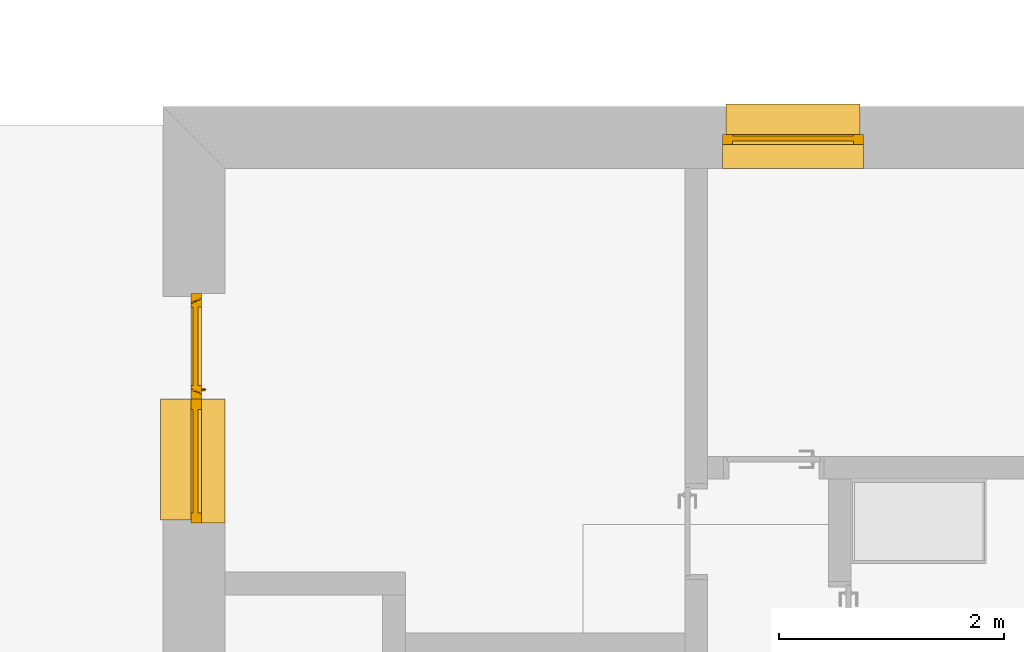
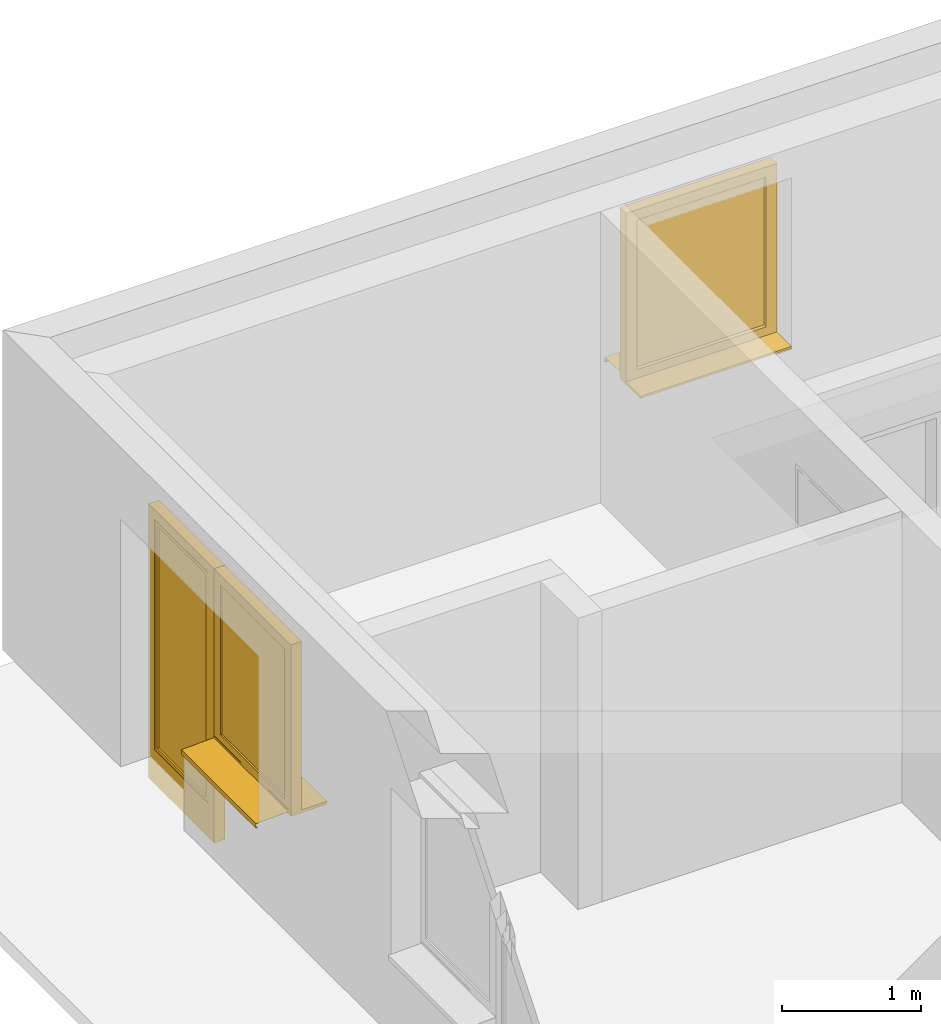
# One storey, part 15 of 18: 3 windows.
"""IFC2X3 building model written with IfcOpenShell, lengths in metres."""

from ifc_helpers import new_model, entity, si_unit, converted_unit, derived_unit, direction, frame, origin, origin_2d_with_axis, place, context, subcontext, project, spatial, polyline, rectangle, outline, extrude, faceted_brep, source, transform, mapped, material, material_list, type_object, type_shapes, element, save


model = new_model("IFC2X3")

# Units and contexts
model_context = context("Model", 3, precision=1e-05, world=origin(), true_north=direction((6.123233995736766e-17, 1.0)))
body_context = subcontext(model_context, "Body", "Model", "MODEL_VIEW")
ifc_project = project(units=[si_unit("LENGTHUNIT", "METRE"), si_unit("AREAUNIT", "SQUARE_METRE"), si_unit("VOLUMEUNIT", "CUBIC_METRE"), si_unit("POWERUNIT", "WATT"), derived_unit("USERDEFINED", [(si_unit("MASSUNIT", "GRAM", prefix="KILO"), 1), (si_unit("TIMEUNIT", "SECOND"), -3)]), derived_unit("THERMALRESISTANCEUNIT", [(si_unit("MASSUNIT", "GRAM", prefix="KILO"), -1), (si_unit("TIMEUNIT", "SECOND"), 3), (si_unit("THERMODYNAMICTEMPERATUREUNIT", "KELVIN"), 1)]), derived_unit("USERDEFINED", [(si_unit("MASSUNIT", "GRAM", prefix="KILO"), 1), (si_unit("TIMEUNIT", "SECOND"), -2), (si_unit("THERMODYNAMICTEMPERATUREUNIT", "KELVIN"), -1)]), derived_unit("THERMALTRANSMITTANCEUNIT", [(si_unit("MASSUNIT", "GRAM", prefix="KILO"), 1), (si_unit("TIMEUNIT", "SECOND"), -3), (si_unit("THERMODYNAMICTEMPERATUREUNIT", "KELVIN"), -1)]), converted_unit("PLANEANGLEUNIT", "DEGREE", entity("IfcPlaneAngleMeasure", 0.017453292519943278), si_unit("PLANEANGLEUNIT", "RADIAN"), dimensions=[0, 0, 0, 0, 0, 0, 0]), derived_unit("MOMENTOFINERTIAUNIT", [(si_unit("LENGTHUNIT", "METRE"), 4)])], contexts=[model_context])

# Site, building, storey
site_placement = place(None, origin())
site = spatial("IfcSite", under=ifc_project, at=site_placement, Name="Default", CompositionType="ELEMENT")
building_placement = place(site_placement, origin())
building = spatial("IfcBuilding", under=site, at=building_placement, CompositionType="ELEMENT")
storey_placement = place(building_placement, frame((0.0, 0.0, 2.6)))
storey = spatial("IfcBuildingStorey", under=building, at=storey_placement, Name="Erdgeschoss", CompositionType="ELEMENT", Elevation=2.6)

# Windows
ifc_material_1 = material(Name="Glas - Isolierverglasung klar")
ifc_material_2 = material(Name="Kunststoff - grau 70-70-70")
ifc_material_3 = material(Name="Holz - generisch 140-100-70")
ifc_material_list_1 = material_list([ifc_material_1, ifc_material_2, ifc_material_3])
window_style_1 = type_object("IfcWindowStyle", Name="FE 1 tlg - Fix:1100 x 1500", ConstructionType="NOTDEFINED", OperationType="NOTDEFINED", ParameterTakesPrecedence=False, Sizeable=False, material=ifc_material_list_1)
shared_shape_1 = source(origin(), body_context, "Body", "SolidModel", [
    extrude(rectangle(XDim=0.9199999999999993, YDim=0.04399999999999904, at=origin_2d_with_axis()), frame((0.5499999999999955, 0.2630000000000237, 0.10000000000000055), z_axis=(0.0, 0.0, 1.0), x_axis=(-1.0, 0.0, 0.0)), (0.0, 0.0, 1.0), 1.3099999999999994),
    extrude(outline(polyline([(-0.7499999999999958, -0.5499999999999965), (0.7499999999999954, -0.5499999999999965), (0.7499999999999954, 0.5499999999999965), (-0.7499999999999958, 0.5499999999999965), (-0.7499999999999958, -0.5499999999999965)]), holes=[polyline([(-0.660000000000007, 0.4599999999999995), (0.6499999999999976, 0.4599999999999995), (0.6499999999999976, -0.4599999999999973), (-0.660000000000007, -0.4599999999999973), (-0.660000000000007, 0.4599999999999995)])]), frame((0.5499999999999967, 0.2100000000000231, 0.7499999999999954), z_axis=(0.0, 1.0, 0.0), x_axis=(0.0, 0.0, -1.0)), (0.0, 0.0, 1.0), 0.08999999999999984),
    extrude(outline(polyline([(-0.014333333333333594, -0.07333333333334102), (0.0036666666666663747, -0.07333333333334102), (0.0036666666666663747, -0.06333333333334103), (0.010666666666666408, -0.06333333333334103), (0.010666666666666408, 0.1366666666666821), (-0.014333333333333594, 0.1366666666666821), (-0.014333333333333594, -0.07333333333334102)])), frame((0.0, 0.07333333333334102, 0.010666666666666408), z_axis=(1.0, 0.0, 0.0), x_axis=(0.0, 0.0, -1.0)), (0.0, 0.0, 1.0), 1.0999999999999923),
    faceted_brep([(0.02999999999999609, 0.5720000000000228, 0.011120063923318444), (0.02999999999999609, 0.550000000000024, 0.012000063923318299), (0.029999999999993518, 0.30200000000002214, 0.021920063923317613), (1.0999999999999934, 0.30200000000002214, 0.021920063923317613), (1.0999999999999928, 0.550000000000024, 0.012000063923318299), (1.0999999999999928, 0.5720000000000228, 0.011120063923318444), (0.02999999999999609, 0.5720000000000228, -0.0288799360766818), (1.0999999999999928, 0.5720000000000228, -0.0288799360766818), (0.02999999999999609, 0.5600000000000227, -0.0288799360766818), (1.0999999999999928, 0.5600000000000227, -0.0288799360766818), (0.02999999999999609, 0.5600000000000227, -0.026879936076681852), (1.0999999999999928, 0.5600000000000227, -0.026879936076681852), (0.02999999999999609, 0.5700000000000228, -0.026879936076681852), (1.0999999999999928, 0.5700000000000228, -0.026879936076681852), (0.02999999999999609, 0.5700000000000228, 0.009200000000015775), (1.0999999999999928, 0.5700000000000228, 0.009200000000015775), (0.02999999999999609, 0.550000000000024, 0.010000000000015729), (1.0999999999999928, 0.550000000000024, 0.010000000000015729), (1.099999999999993, 0.3000000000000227, 0.02000000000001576), (0.029999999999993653, 0.30000000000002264, 0.02000000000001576), (0.029999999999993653, 0.3000000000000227, 0.040000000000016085), (1.099999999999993, 0.3000000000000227, 0.040000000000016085), (0.029999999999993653, 0.30200000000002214, 0.040000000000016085), (1.099999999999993, 0.30200000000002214, 0.040000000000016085)], [[[0, 1, 2, 3, 4, 5]], [[6, 0, 5, 7]], [[8, 6, 7, 9]], [[10, 8, 9, 11]], [[12, 10, 11, 13]], [[14, 12, 13, 15]], [[16, 14, 15, 17, 18, 19]], [[20, 19, 18, 21]], [[22, 20, 21, 23]], [[2, 22, 23, 3]], [[16, 1, 0, 6, 8, 10, 12, 14]], [[17, 4, 3, 23, 21, 18]], [[1, 16, 19, 20, 22, 2]], [[4, 17, 15, 13, 11, 9, 7, 5]]]),
])
type_shapes(window_style_1, [shared_shape_1])
window_1_placement = place(storey_placement, frame((30.086720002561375, 24.892272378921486, 0.6999999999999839), z_axis=(0.0, 0.0, 1.0), x_axis=(0.0, 1.0, 0.0)))
element("IfcWindow", 1, at=window_1_placement, inside=storey, type_object=window_style_1, material=ifc_material_list_1, Name="FE 1 tlg - Fix:1100 x 1500", ObjectType="FE 1 tlg - Fix:1100 x 1500", OverallHeight=2.3500000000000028, OverallWidth=1.1000000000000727, context=body_context, shape_type="MappedRepresentation", body=[
    mapped(shared_shape_1, transform((0.0, 0.0, 0.0), scale=1.0)),
])
window_style_2 = type_object("IfcWindowStyle", Name="FE 1 tlg - Fix:1250 x 1500", ConstructionType="NOTDEFINED", OperationType="NOTDEFINED", ParameterTakesPrecedence=False, Sizeable=False, material=ifc_material_list_1)
shared_shape_2 = source(origin(), body_context, "Body", "SolidModel", [
    extrude(rectangle(XDim=1.0699999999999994, YDim=0.04399999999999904, at=origin_2d_with_axis()), frame((0.624999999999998, 0.2630000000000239, 0.10000000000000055), z_axis=(0.0, 0.0, 1.0), x_axis=(-1.0, 0.0, 0.0)), (0.0, 0.0, 1.0), 1.3099999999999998),
    extrude(outline(polyline([(-0.7499999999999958, -0.6249999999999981), (0.7499999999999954, -0.6249999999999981), (0.7499999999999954, 0.6249999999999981), (-0.7499999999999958, 0.6249999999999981), (-0.7499999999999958, -0.6249999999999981)]), holes=[polyline([(-0.660000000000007, 0.5350000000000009), (0.6499999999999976, 0.5350000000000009), (0.6499999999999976, -0.5349999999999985), (-0.660000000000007, -0.5349999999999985), (-0.660000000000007, 0.5350000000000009)])]), frame((0.6249999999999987, 0.2100000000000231, 0.7499999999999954), z_axis=(0.0, 1.0, 0.0), x_axis=(0.0, 0.0, -1.0)), (0.0, 0.0, 1.0), 0.08999999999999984),
    extrude(outline(polyline([(-0.014333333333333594, -0.07333333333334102), (0.0036666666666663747, -0.07333333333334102), (0.0036666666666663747, -0.06333333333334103), (0.010666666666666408, -0.06333333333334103), (0.010666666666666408, 0.1366666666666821), (-0.014333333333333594, 0.1366666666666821), (-0.014333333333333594, -0.07333333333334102)])), frame((0.0, 0.07333333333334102, 0.010666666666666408), z_axis=(1.0, 0.0, 0.0), x_axis=(0.0, 0.0, -1.0)), (0.0, 0.0, 1.0), 1.249999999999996),
    faceted_brep([(0.02999999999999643, 0.5720000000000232, 0.011120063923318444), (0.02999999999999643, 0.5500000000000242, 0.012000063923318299), (0.029999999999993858, 0.30200000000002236, 0.021920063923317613), (1.2199999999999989, 0.30200000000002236, 0.021920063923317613), (1.2199999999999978, 0.5500000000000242, 0.012000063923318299), (1.2199999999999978, 0.572000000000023, 0.011120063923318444), (0.02999999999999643, 0.572000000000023, -0.0288799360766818), (1.2199999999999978, 0.572000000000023, -0.0288799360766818), (0.02999999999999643, 0.5600000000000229, -0.0288799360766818), (1.2199999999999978, 0.5600000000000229, -0.0288799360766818), (0.02999999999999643, 0.5600000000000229, -0.026879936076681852), (1.2199999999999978, 0.5600000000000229, -0.026879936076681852), (0.02999999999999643, 0.5700000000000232, -0.026879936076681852), (1.2199999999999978, 0.5700000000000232, -0.026879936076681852), (0.02999999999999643, 0.5700000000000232, 0.009200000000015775), (1.2199999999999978, 0.5700000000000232, 0.009200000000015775), (0.02999999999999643, 0.5500000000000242, 0.010000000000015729), (1.2199999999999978, 0.5500000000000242, 0.010000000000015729), (1.2199999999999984, 0.3000000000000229, 0.02000000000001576), (0.029999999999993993, 0.30000000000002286, 0.02000000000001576), (0.029999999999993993, 0.3000000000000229, 0.040000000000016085), (1.2199999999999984, 0.3000000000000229, 0.040000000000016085), (0.029999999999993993, 0.30200000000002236, 0.040000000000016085), (1.2199999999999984, 0.30200000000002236, 0.040000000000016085)], [[[0, 1, 2, 3, 4, 5]], [[6, 0, 5, 7]], [[8, 6, 7, 9]], [[10, 8, 9, 11]], [[12, 10, 11, 13]], [[14, 12, 13, 15]], [[16, 14, 15, 17, 18, 19]], [[20, 19, 18, 21]], [[22, 20, 21, 23]], [[2, 22, 23, 3]], [[16, 1, 0, 6, 8, 10, 12, 14]], [[17, 4, 3, 23, 21, 18]], [[1, 16, 19, 20, 22, 2]], [[4, 17, 15, 13, 11, 9, 7, 5]]]),
])
type_shapes(window_style_2, [shared_shape_2])
window_2_placement = place(storey_placement, frame((34.50375489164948, 28.042272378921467, 0.7900000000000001)))
element("IfcWindow", 2, at=window_2_placement, inside=storey, type_object=window_style_2, material=ifc_material_list_1, Name="FE 1 tlg - Fix:1250 x 1500", ObjectType="FE 1 tlg - Fix:1250 x 1500", OverallHeight=2.3500000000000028, OverallWidth=1.2500000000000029, context=body_context, shape_type="MappedRepresentation", body=[
    mapped(shared_shape_2, transform((0.0, 0.0, 0.0), scale=1.0)),
])
ifc_material_4 = material(Name="Metall - Edelstahl gebürstet")
ifc_material_list_2 = material_list([ifc_material_1, ifc_material_4, ifc_material_2])
window_style_3 = type_object("IfcWindowStyle", Name="FE TÜR 1 tlg - DrehKipp:940 x 2200", ConstructionType="NOTDEFINED", OperationType="NOTDEFINED", ParameterTakesPrecedence=False, Sizeable=False, material=ifc_material_list_2)
shared_shape_3 = source(origin(), body_context, "Body", "SolidModel", [
    extrude(rectangle(XDim=0.7000000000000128, YDim=0.04399999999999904, at=origin_2d_with_axis()), frame((0.4700000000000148, 0.9730000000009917, 0.3300000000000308), z_axis=(0.0, 0.0, 1.0), x_axis=(-1.0, 0.0, 0.0)), (0.0, 0.0, 1.0), 1.949999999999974),
    faceted_brep([(0.07250000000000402, 0.920000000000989, 1.2874999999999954), (0.07250000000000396, 0.9200000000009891, 1.3049999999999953), (0.0725000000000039, 0.9200000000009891, 1.3224999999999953), (0.07292592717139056, 0.9200000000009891, 1.3257352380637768), (0.07417468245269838, 0.9200000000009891, 1.3287499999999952), (0.07616116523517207, 0.9200000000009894, 1.3313388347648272), (0.07875000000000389, 0.9200000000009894, 1.3333253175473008), (0.08176476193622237, 0.9200000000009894, 1.3345740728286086), (0.08500000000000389, 0.9200000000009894, 1.3349999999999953), (0.08823523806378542, 0.9200000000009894, 1.3345740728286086), (0.0912500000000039, 0.9200000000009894, 1.3333253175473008), (0.09383883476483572, 0.9200000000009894, 1.3313388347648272), (0.0958253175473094, 0.9200000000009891, 1.3287499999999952), (0.09707407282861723, 0.9200000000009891, 1.3257352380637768), (0.09750000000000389, 0.9200000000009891, 1.3224999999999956), (0.09750000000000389, 0.9200000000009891, 1.3049999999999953), (0.09750000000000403, 0.920000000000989, 1.2874999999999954), (0.09707407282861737, 0.920000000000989, 1.2842647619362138), (0.09582531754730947, 0.920000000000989, 1.2812499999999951), (0.09383883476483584, 0.920000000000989, 1.2786611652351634), (0.09125000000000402, 0.920000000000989, 1.2766746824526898), (0.08823523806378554, 0.920000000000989, 1.2754259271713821), (0.08500000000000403, 0.920000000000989, 1.2749999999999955), (0.08176476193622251, 0.920000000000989, 1.2754259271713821), (0.07875000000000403, 0.920000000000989, 1.2766746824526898), (0.0761611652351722, 0.920000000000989, 1.2786611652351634), (0.07417468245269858, 0.920000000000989, 1.2812499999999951), (0.07292592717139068, 0.920000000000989, 1.2842647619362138), (0.0763397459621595, 0.8850000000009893, 1.3099999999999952), (0.0800000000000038, 0.9140000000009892, 1.3136602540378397), (0.07534074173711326, 0.8874118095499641, 1.3075881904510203), (0.07792893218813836, 0.8829289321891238, 1.3120710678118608), (0.0824118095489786, 0.9140000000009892, 1.314659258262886), (0.08758819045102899, 0.8803407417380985, 1.3146592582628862), (0.09000000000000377, 0.8813397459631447, 1.31366025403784), (0.0800000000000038, 0.8813397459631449, 1.3136602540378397), (0.08241180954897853, 0.8803407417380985, 1.314659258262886), (0.08500000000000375, 0.8800000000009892, 1.3149999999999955), (0.08500000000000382, 0.9140000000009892, 1.3149999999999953), (0.07534074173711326, 0.9140000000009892, 1.3075881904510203), (0.07500000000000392, 0.9140000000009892, 1.3049999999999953), (0.07500000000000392, 0.9017156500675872, 1.3049999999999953), (0.07500000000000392, 0.8958578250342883, 1.3049999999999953), (0.07500000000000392, 0.8929289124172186, 1.3049999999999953), (0.07500000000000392, 0.8900000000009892, 1.3049999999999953), (0.0763397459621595, 0.9140000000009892, 1.3099999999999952), (0.07792893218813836, 0.9140000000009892, 1.3120710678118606), (0.0920710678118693, 0.8829289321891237, 1.3120710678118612), (0.09000000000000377, 0.9140000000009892, 1.31366025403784), (0.09366025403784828, 0.8850000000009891, 1.3099999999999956), (0.09465925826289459, 0.8874118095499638, 1.307588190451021), (0.08758819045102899, 0.9140000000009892, 1.314659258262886), (0.0920710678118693, 0.9140000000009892, 1.3120710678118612), (0.09500000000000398, 0.8900000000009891, 1.3049999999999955), (0.09366025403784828, 0.9140000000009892, 1.3099999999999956), (0.09465925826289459, 0.9140000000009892, 1.307588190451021), (0.09500000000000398, 0.8929289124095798, 1.3049999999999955), (0.09500000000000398, 0.8958578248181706, 1.3049999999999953), (0.09500000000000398, 0.9017156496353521, 1.3049999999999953), (0.09500000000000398, 0.9140000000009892, 1.3049999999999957), (0.09207106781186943, 0.8970710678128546, 1.2979289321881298), (0.09366025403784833, 0.8950000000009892, 1.2999999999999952), (0.09465925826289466, 0.8925881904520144, 1.3024118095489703), (0.09465925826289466, 0.9140000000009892, 1.30241180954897), (0.09000000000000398, 0.8986602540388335, 1.2963397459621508), (0.08758819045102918, 0.8996592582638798, 1.2953407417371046), (0.09207106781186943, 0.9140000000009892, 1.2979289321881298), (0.09366025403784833, 0.9140000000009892, 1.2999999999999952), (0.09000000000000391, 0.9140000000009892, 1.2963397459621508), (0.08758819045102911, 0.9140000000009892, 1.2953407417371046), (0.08500000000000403, 0.9000000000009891, 1.2949999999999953), (0.08500000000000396, 0.9140000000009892, 1.2949999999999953), (0.07792893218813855, 0.8970710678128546, 1.2979289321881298), (0.08000000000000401, 0.8986602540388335, 1.2963397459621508), (0.0824118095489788, 0.8996592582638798, 1.2953407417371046), (0.07792893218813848, 0.9140000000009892, 1.2979289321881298), (0.07534074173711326, 0.9140000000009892, 1.30241180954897), (0.07534074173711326, 0.8925881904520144, 1.30241180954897), (0.07633974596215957, 0.8950000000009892, 1.2999999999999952), (0.08241180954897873, 0.9140000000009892, 1.2953407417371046), (0.08000000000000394, 0.9140000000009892, 1.2963397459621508), (0.07633974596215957, 0.9140000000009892, 1.2999999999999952), (0.07500000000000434, 0.8900000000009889, 1.1849999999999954), (0.07534074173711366, 0.892588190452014, 1.1849999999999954), (0.07633974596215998, 0.8950000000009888, 1.1849999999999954), (0.0779289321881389, 0.8970710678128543, 1.1849999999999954), (0.08000000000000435, 0.8986602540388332, 1.1849999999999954), (0.08241180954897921, 0.8996592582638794, 1.1849999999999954), (0.08500000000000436, 0.9000000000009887, 1.1849999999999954), (0.0875881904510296, 0.8996592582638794, 1.1849999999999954), (0.09000000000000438, 0.8986602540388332, 1.1849999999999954), (0.09207106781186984, 0.8970710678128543, 1.1849999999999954), (0.09366025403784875, 0.8950000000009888, 1.1849999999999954), (0.09465925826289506, 0.892588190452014, 1.1849999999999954), (0.09500000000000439, 0.8900000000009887, 1.1849999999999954), (0.094659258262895, 0.8874118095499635, 1.1849999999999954), (0.09366025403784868, 0.8850000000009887, 1.1849999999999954), (0.09207106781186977, 0.8829289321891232, 1.1849999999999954), (0.09000000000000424, 0.8813397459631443, 1.1849999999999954), (0.08758819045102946, 0.880340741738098, 1.1849999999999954), (0.08500000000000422, 0.8800000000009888, 1.1849999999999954), (0.08241180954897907, 0.8803407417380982, 1.1849999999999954), (0.08000000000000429, 0.8813397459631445, 1.1849999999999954), (0.07792893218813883, 0.8829289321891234, 1.1849999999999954), (0.07633974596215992, 0.8850000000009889, 1.1849999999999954), (0.07534074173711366, 0.8874118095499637, 1.1849999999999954), (0.07500000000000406, 0.8900000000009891, 1.2773956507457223), (0.07500000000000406, 0.8900000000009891, 1.2497913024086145), (0.09500000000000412, 0.890000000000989, 1.2497913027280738), (0.09500000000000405, 0.8900000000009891, 1.2773956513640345), (0.09582531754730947, 0.914000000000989, 1.2812499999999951), (0.09383883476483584, 0.914000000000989, 1.2786611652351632), (0.09707407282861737, 0.914000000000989, 1.2842647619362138), (0.09750000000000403, 0.914000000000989, 1.2874999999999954), (0.09750000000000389, 0.9140000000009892, 1.3049999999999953), (0.09750000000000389, 0.9140000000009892, 1.3224999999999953), (0.09707407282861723, 0.9140000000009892, 1.3257352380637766), (0.0958253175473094, 0.9140000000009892, 1.3287499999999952), (0.09383883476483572, 0.9140000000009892, 1.3313388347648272), (0.0912500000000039, 0.9140000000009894, 1.3333253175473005), (0.08823523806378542, 0.9140000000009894, 1.3345740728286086), (0.08500000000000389, 0.9140000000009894, 1.3349999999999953), (0.08176476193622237, 0.9140000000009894, 1.3345740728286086), (0.07875000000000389, 0.9140000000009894, 1.3333253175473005), (0.07616116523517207, 0.9140000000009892, 1.3313388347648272), (0.07417468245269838, 0.9140000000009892, 1.3287499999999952), (0.07292592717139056, 0.9140000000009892, 1.3257352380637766), (0.0725000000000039, 0.9140000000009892, 1.3224999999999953), (0.07250000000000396, 0.9140000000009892, 1.3049999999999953), (0.07250000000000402, 0.914000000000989, 1.2874999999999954), (0.07292592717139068, 0.914000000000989, 1.2842647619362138), (0.07417468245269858, 0.914000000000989, 1.2812499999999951), (0.0761611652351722, 0.914000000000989, 1.2786611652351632), (0.07875000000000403, 0.914000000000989, 1.2766746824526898), (0.08176476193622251, 0.914000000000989, 1.275425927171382), (0.08500000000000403, 0.914000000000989, 1.2749999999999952), (0.08823523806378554, 0.914000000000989, 1.275425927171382), (0.09125000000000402, 0.914000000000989, 1.2766746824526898)], [[[0, 1, 2, 3, 4, 5, 6, 7, 8, 9, 10, 11, 12, 13, 14, 15, 16, 17, 18, 19, 20, 21, 22, 23, 24, 25, 26, 27]], [[28, 29, 30]], [[31, 32, 28]], [[33, 34, 35, 36, 37]], [[32, 31, 38]], [[38, 31, 35]], [[39, 40, 41, 42, 43, 44]], [[39, 44, 45]], [[46, 45, 44]], [[46, 30, 29]], [[44, 30, 46]], [[28, 32, 29]], [[35, 34, 38]], [[47, 38, 34]], [[48, 49, 50]], [[47, 49, 51]], [[52, 50, 53]], [[51, 38, 47]], [[48, 51, 49]], [[54, 52, 53]], [[55, 53, 56, 57, 58, 59]], [[54, 53, 55]], [[48, 50, 52]], [[60, 58, 61]], [[53, 62, 57, 56]], [[58, 63, 59]], [[58, 57, 61]], [[64, 65, 66]], [[58, 64, 66]], [[58, 60, 64]], [[58, 67, 63]], [[65, 68, 66]], [[67, 58, 66]], [[68, 65, 69]], [[70, 71, 69, 65]], [[61, 57, 62]], [[72, 41, 73]], [[74, 73, 75]], [[76, 41, 40]], [[77, 44, 43, 42]], [[42, 78, 77]], [[78, 41, 72]], [[71, 70, 74, 79]], [[80, 79, 74]], [[75, 73, 41]], [[42, 41, 78]], [[41, 76, 81]], [[41, 81, 75]], [[80, 74, 75]], [[82, 83, 84, 85, 86, 87, 88, 89, 90, 91, 92, 93, 94, 95, 96, 97, 98, 99, 100, 101, 102, 103, 104, 105]], [[105, 44, 106, 107, 82]], [[104, 44, 105]], [[102, 101, 36, 35]], [[30, 104, 103]], [[31, 103, 102, 35]], [[103, 28, 30]], [[30, 44, 104]], [[31, 28, 103]], [[100, 37, 36, 101]], [[98, 97, 47, 34]], [[99, 98, 34, 33]], [[95, 94, 108, 109, 53]], [[96, 95, 53]], [[97, 96, 50]], [[33, 37, 100, 99]], [[97, 49, 47]], [[97, 50, 49]], [[96, 53, 50]], [[108, 92, 91]], [[92, 108, 93]], [[89, 65, 108]], [[108, 90, 89]], [[108, 91, 90]], [[93, 108, 94]], [[62, 53, 109]], [[61, 62, 109]], [[70, 65, 89, 88]], [[64, 108, 65]], [[108, 64, 60]], [[109, 60, 61]], [[106, 78, 72]], [[78, 106, 77]], [[85, 107, 86]], [[86, 107, 87]], [[82, 107, 83]], [[44, 77, 106]], [[83, 107, 84]], [[84, 107, 85]], [[74, 70, 88, 87]], [[87, 107, 74]], [[107, 72, 73]], [[107, 106, 72]], [[73, 74, 107]], [[108, 60, 109]], [[110, 71, 111]], [[69, 71, 110]], [[112, 69, 110]], [[112, 113, 69]], [[69, 113, 68]], [[66, 68, 113]], [[67, 66, 113]], [[114, 67, 113]], [[114, 63, 67]], [[114, 59, 63]], [[55, 59, 114]], [[114, 54, 55]], [[54, 114, 115]], [[52, 54, 115]], [[48, 52, 115]], [[51, 48, 115]], [[116, 51, 115]], [[116, 117, 51]], [[51, 117, 38]], [[118, 38, 117]], [[38, 118, 119]], [[119, 120, 38]], [[38, 120, 121]], [[38, 121, 122]], [[122, 123, 38]], [[123, 124, 38]], [[125, 38, 124]], [[32, 38, 125]], [[126, 32, 125]], [[32, 126, 127]], [[29, 32, 127]], [[46, 29, 127]], [[45, 46, 127]], [[127, 128, 45]], [[128, 39, 45]], [[128, 40, 39]], [[128, 76, 40]], [[128, 81, 76]], [[128, 129, 81]], [[81, 129, 75]], [[80, 75, 129]], [[79, 80, 129]], [[79, 129, 130]], [[130, 131, 79]], [[71, 131, 132]], [[71, 79, 131]], [[133, 71, 132]], [[71, 133, 134]], [[135, 71, 134]], [[136, 71, 135]], [[71, 136, 137]], [[111, 71, 137]], [[13, 116, 115, 14]], [[12, 117, 116, 13]], [[119, 118, 11, 10]], [[12, 11, 118, 117]], [[120, 119, 10, 9]], [[121, 120, 9, 8]], [[7, 122, 121, 8]], [[6, 123, 122, 7]], [[125, 124, 5, 4]], [[6, 5, 124, 123]], [[126, 125, 4, 3]], [[127, 126, 3, 2]], [[128, 127, 2, 1, 0, 129]], [[27, 130, 129, 0]], [[26, 131, 130, 27]], [[133, 132, 25, 24]], [[26, 25, 132, 131]], [[134, 133, 24, 23]], [[135, 134, 23, 22]], [[21, 136, 135, 22]], [[20, 137, 136, 21]], [[110, 111, 19, 18]], [[20, 19, 111, 137]], [[112, 110, 18, 17]], [[113, 112, 17, 16]], [[114, 113, 16, 15, 14, 115]]]),
    faceted_brep([(0.8200000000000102, 0.9200000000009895, 2.2799999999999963), (0.8200000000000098, 1.0100000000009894, 2.2799999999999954), (0.820000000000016, 1.0100000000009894, 0.32999999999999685), (0.8200000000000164, 0.9200000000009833, 0.3299999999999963), (0.8500000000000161, 1.010000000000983, 0.29999999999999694), (0.09000000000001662, 1.010000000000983, 0.2999999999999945), (0.0900000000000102, 1.0100000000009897, 2.309999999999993), (0.8500000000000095, 1.0100000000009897, 2.3099999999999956), (0.12000000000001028, 1.0100000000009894, 2.279999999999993), (0.12000000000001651, 1.0100000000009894, 0.32999999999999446), (0.12000000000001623, 0.9200000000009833, 0.32999999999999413), (0.12000000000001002, 0.9200000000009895, 2.279999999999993), (0.8900000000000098, 0.9200000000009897, 2.3499999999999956), (0.05000000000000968, 0.9200000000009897, 2.349999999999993), (0.05000000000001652, 0.9200000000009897, 0.25999999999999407), (0.8900000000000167, 0.9200000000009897, 0.2599999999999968), (0.8900000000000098, 0.9350000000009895, 2.3499999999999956), (0.8900000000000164, 0.9350000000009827, 0.2599999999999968), (0.05000000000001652, 0.9350000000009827, 0.25999999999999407), (0.050000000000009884, 0.9350000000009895, 2.349999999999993), (0.87500000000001, 0.9350000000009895, 2.334999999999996), (0.06500000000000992, 0.9350000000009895, 2.3349999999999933), (0.06500000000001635, 0.9350000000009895, 0.2749999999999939), (0.8750000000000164, 0.9350000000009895, 0.27499999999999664), (0.87500000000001, 0.96500000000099, 2.334999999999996), (0.8750000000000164, 0.9650000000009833, 0.2749999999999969), (0.06500000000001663, 0.9650000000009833, 0.2749999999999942), (0.06500000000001, 0.96500000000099, 2.3349999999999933), (0.8650000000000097, 0.96500000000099, 2.3249999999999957), (0.07500000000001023, 0.96500000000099, 2.324999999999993), (0.07500000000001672, 0.96500000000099, 0.2849999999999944), (0.8650000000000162, 0.96500000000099, 0.2849999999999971), (0.8650000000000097, 0.9950000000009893, 2.3249999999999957), (0.8650000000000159, 0.9950000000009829, 0.2849999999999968), (0.07500000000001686, 0.9950000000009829, 0.28499999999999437), (0.07500000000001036, 0.9950000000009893, 2.324999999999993), (0.8500000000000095, 0.9950000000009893, 2.3099999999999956), (0.09000000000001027, 0.9950000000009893, 2.309999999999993), (0.09000000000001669, 0.9950000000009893, 0.2999999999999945), (0.8500000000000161, 0.9950000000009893, 0.29999999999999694)], [[[0, 1, 2, 3]], [[4, 5, 6, 7], [1, 8, 9, 2]], [[3, 2, 9, 10]], [[3, 10, 11, 0], [12, 13, 14, 15]], [[16, 12, 15, 17]], [[17, 15, 14, 18]], [[17, 18, 19, 16], [20, 21, 22, 23]], [[24, 20, 23, 25]], [[25, 23, 22, 26]], [[25, 26, 27, 24], [28, 29, 30, 31]], [[32, 28, 31, 33]], [[33, 31, 30, 34]], [[33, 34, 35, 32], [36, 37, 38, 39]], [[7, 36, 39, 4]], [[4, 39, 38, 5]], [[10, 9, 8, 11]], [[18, 14, 13, 19]], [[26, 22, 21, 27]], [[34, 30, 29, 35]], [[5, 38, 37, 6]], [[11, 8, 1, 0]], [[19, 13, 12, 16]], [[27, 21, 20, 24]], [[35, 29, 28, 32]], [[6, 37, 36, 7]]], outer=[[True], [True, False], [True], [False, True], [True], [True], [True, False], [True], [True], [True, False], [True], [True], [True, False], [True], [True], [True], [True], [True], [True], [True], [True], [True], [True], [True], [True]]),
    faceted_brep([(0.0, 1.0100000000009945, 0.0), (0.9400000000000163, 1.0100000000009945, 0.0), (0.9400000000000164, 0.9200000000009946, 0.0), (0.0, 0.9200000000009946, 0.0), (0.0, 1.0100000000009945, 2.4000000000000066), (0.0, 0.9200000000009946, 2.4000000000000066), (0.9400000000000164, 0.9200000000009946, 2.4000000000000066), (0.0450000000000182, 0.9200000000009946, 2.355), (0.8950000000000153, 0.9200000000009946, 2.355), (0.8950000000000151, 0.9200000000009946, 0.2550000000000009), (0.0450000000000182, 0.9200000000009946, 0.2550000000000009), (0.9400000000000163, 1.0100000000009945, 2.4000000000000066), (0.08500000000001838, 1.0100000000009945, 0.2950000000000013), (0.8550000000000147, 1.0100000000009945, 0.2950000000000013), (0.8550000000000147, 1.0100000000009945, 2.315), (0.08500000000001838, 1.0100000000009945, 2.315), (0.08500000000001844, 0.9950000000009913, 2.315), (0.08500000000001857, 0.9950000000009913, 0.2950000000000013), (0.8550000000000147, 0.9950000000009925, 0.2950000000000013), (0.8550000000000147, 0.9950000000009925, 2.315), (0.0450000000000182, 0.9350000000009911, 2.355), (0.0450000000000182, 0.9350000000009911, 0.2550000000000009), (0.895000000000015, 0.9350000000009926, 0.2550000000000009), (0.8950000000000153, 0.9350000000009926, 2.355), (0.06000000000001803, 0.9350000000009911, 2.3400000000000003), (0.8800000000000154, 0.9350000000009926, 2.3400000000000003), (0.8800000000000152, 0.9350000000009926, 0.27000000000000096), (0.0600000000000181, 0.9350000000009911, 0.27000000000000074), (0.06000000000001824, 0.9650000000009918, 0.270000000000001), (0.8800000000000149, 0.9650000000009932, 0.270000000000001), (0.8800000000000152, 0.9650000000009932, 2.3400000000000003), (0.06000000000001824, 0.9650000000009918, 2.3400000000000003), (0.0700000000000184, 0.9650000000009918, 2.33), (0.8700000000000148, 0.9650000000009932, 2.33), (0.8700000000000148, 0.9650000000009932, 0.2800000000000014), (0.07000000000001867, 0.9650000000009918, 0.28000000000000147), (0.07000000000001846, 0.9950000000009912, 0.2800000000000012), (0.8700000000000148, 0.9950000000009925, 0.2800000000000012), (0.8700000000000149, 0.9950000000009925, 2.33), (0.0700000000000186, 0.9950000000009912, 2.33)], [[[0, 1, 2, 3]], [[4, 0, 3, 5]], [[5, 3, 2, 6], [7, 8, 9, 10]], [[6, 2, 1, 11]], [[11, 1, 0, 4], [12, 13, 14, 15]], [[12, 15, 16, 17]], [[18, 19, 14, 13]], [[17, 18, 13, 12]], [[20, 7, 10, 21]], [[10, 9, 22, 21]], [[9, 8, 23, 22]], [[21, 22, 23, 20], [24, 25, 26, 27]], [[28, 29, 30, 31], [32, 33, 34, 35]], [[31, 24, 27, 28]], [[27, 26, 29, 28]], [[36, 37, 38, 39], [16, 19, 18, 17]], [[39, 32, 35, 36]], [[35, 34, 37, 36]], [[26, 25, 30, 29]], [[34, 33, 38, 37]], [[4, 5, 6, 11]], [[20, 23, 8, 7]], [[31, 30, 25, 24]], [[39, 38, 33, 32]], [[15, 14, 19, 16]]]),
])
type_shapes(window_style_3, [shared_shape_3])
window_3_placement = place(storey_placement, frame((30.796720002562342, 25.992272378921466, -0.2), z_axis=(0.0, 0.0, 1.0), x_axis=(0.0, 1.0, 0.0)))
element("IfcWindow", 3, at=window_3_placement, inside=storey, type_object=window_style_3, material=ifc_material_list_2, Name="FE TÜR 1 tlg - DrehKipp:940 x 2200", ObjectType="FE TÜR 1 tlg - DrehKipp:940 x 2200", OverallHeight=2.4000000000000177, OverallWidth=0.9400000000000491, context=body_context, shape_type="MappedRepresentation", body=[
    mapped(shared_shape_3, transform((0.0, 0.0, 0.0), scale=1.0)),
])

save(model, "model.ifc")
